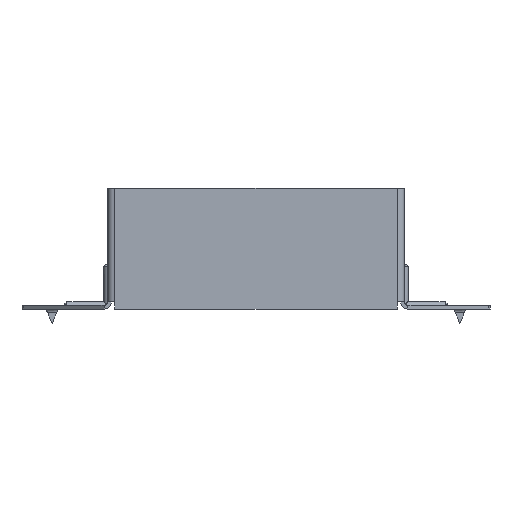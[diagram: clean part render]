
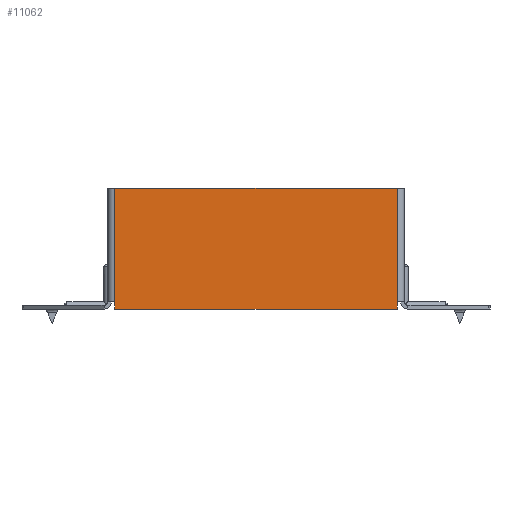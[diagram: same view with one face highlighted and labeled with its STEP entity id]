
A CAD part, front view. The second image highlights one B-rep face of the part: STEP entity #11062.
In plain terms, the highlighted planar face has unit normal (0, -1, 0).
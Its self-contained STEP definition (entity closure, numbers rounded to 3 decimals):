
#179 = FACE_OUTER_BOUND ( 'NONE', #5602, .T. ) ;
#669 = DIRECTION ( 'NONE',  ( 0., 0., 1. ) ) ;
#1551 = LINE ( 'NONE', #16916, #18107 ) ;
#2084 = CARTESIAN_POINT ( 'NONE',  ( 0., 0., -20. ) ) ;
#2755 = VERTEX_POINT ( 'NONE', #7631 ) ;
#2776 = EDGE_CURVE ( 'NONE', #9585, #10793, #17565, .T. ) ;
#3605 = CARTESIAN_POINT ( 'NONE',  ( 58.5, 0., -70. ) ) ;
#3704 = CARTESIAN_POINT ( 'NONE',  ( -58.5, 0., -70. ) ) ;
#4330 = LINE ( 'NONE', #2084, #7502 ) ;
#5028 = CARTESIAN_POINT ( 'NONE',  ( -58.5, 0., -67. ) ) ;
#5283 = VECTOR ( 'NONE', #669, 1000. ) ;
#5443 = DIRECTION ( 'NONE',  ( 0., 0., -1. ) ) ;
#5513 = ORIENTED_EDGE ( 'NONE', *, *, #6731, .T. ) ;
#5602 = EDGE_LOOP ( 'NONE', ( #5513, #12946, #17956, #10529, #12592, #9297 ) ) ;
#6731 = EDGE_CURVE ( 'NONE', #2755, #9585, #4330, .T. ) ;
#7502 = VECTOR ( 'NONE', #10509, 1000. ) ;
#7631 = CARTESIAN_POINT ( 'NONE',  ( 58.5, 0., -20. ) ) ;
#7720 = VECTOR ( 'NONE', #13777, 1000. ) ;
#7804 = DIRECTION ( 'NONE',  ( 0., 0., 1. ) ) ;
#8381 = EDGE_CURVE ( 'NONE', #15907, #2755, #1551, .T. ) ;
#9297 = ORIENTED_EDGE ( 'NONE', *, *, #8381, .T. ) ;
#9585 = VERTEX_POINT ( 'NONE', #15756 ) ;
#9676 = VERTEX_POINT ( 'NONE', #3704 ) ;
#10509 = DIRECTION ( 'NONE',  ( -1., 0., 0. ) ) ;
#10529 = ORIENTED_EDGE ( 'NONE', *, *, #13579, .F. ) ;
#10617 = DIRECTION ( 'NONE',  ( -1., 0., 0. ) ) ;
#10724 = EDGE_CURVE ( 'NONE', #12172, #15907, #13806, .T. ) ;
#10793 = VERTEX_POINT ( 'NONE', #5028 ) ;
#11062 = ADVANCED_FACE ( 'NONE', ( #179 ), #17963, .F. ) ;
#12045 = DIRECTION ( 'NONE',  ( 0., 1., 0. ) ) ;
#12098 = EDGE_CURVE ( 'NONE', #10793, #9676, #16650, .T. ) ;
#12172 = VERTEX_POINT ( 'NONE', #14155 ) ;
#12592 = ORIENTED_EDGE ( 'NONE', *, *, #10724, .T. ) ;
#12946 = ORIENTED_EDGE ( 'NONE', *, *, #2776, .T. ) ;
#13579 = EDGE_CURVE ( 'NONE', #12172, #9676, #14145, .T. ) ;
#13741 = VECTOR ( 'NONE', #5443, 1000. ) ;
#13777 = DIRECTION ( 'NONE',  ( 0., 0., -1. ) ) ;
#13806 = LINE ( 'NONE', #3605, #5283 ) ;
#13962 = CARTESIAN_POINT ( 'NONE',  ( -58.5, 0., 0. ) ) ;
#14145 = LINE ( 'NONE', #14966, #15024 ) ;
#14155 = CARTESIAN_POINT ( 'NONE',  ( 58.5, 0., -70. ) ) ;
#14164 = DIRECTION ( 'NONE',  ( 0., 0., 1. ) ) ;
#14352 = CARTESIAN_POINT ( 'NONE',  ( 58.5, 0., -67. ) ) ;
#14847 = CARTESIAN_POINT ( 'NONE',  ( 0., 0., 0. ) ) ;
#14966 = CARTESIAN_POINT ( 'NONE',  ( -60., 0., -70. ) ) ;
#15024 = VECTOR ( 'NONE', #10617, 1000. ) ;
#15756 = CARTESIAN_POINT ( 'NONE',  ( -58.5, 0., -20. ) ) ;
#15907 = VERTEX_POINT ( 'NONE', #14352 ) ;
#16650 = LINE ( 'NONE', #16905, #13741 ) ;
#16905 = CARTESIAN_POINT ( 'NONE',  ( -58.5, 0., 0. ) ) ;
#16916 = CARTESIAN_POINT ( 'NONE',  ( 58.5, 0., -70. ) ) ;
#17565 = LINE ( 'NONE', #13962, #7720 ) ;
#17613 = AXIS2_PLACEMENT_3D ( 'NONE', #14847, #12045, #7804 ) ;
#17956 = ORIENTED_EDGE ( 'NONE', *, *, #12098, .T. ) ;
#17963 = PLANE ( 'NONE',  #17613 ) ;
#18107 = VECTOR ( 'NONE', #14164, 1000. ) ;
